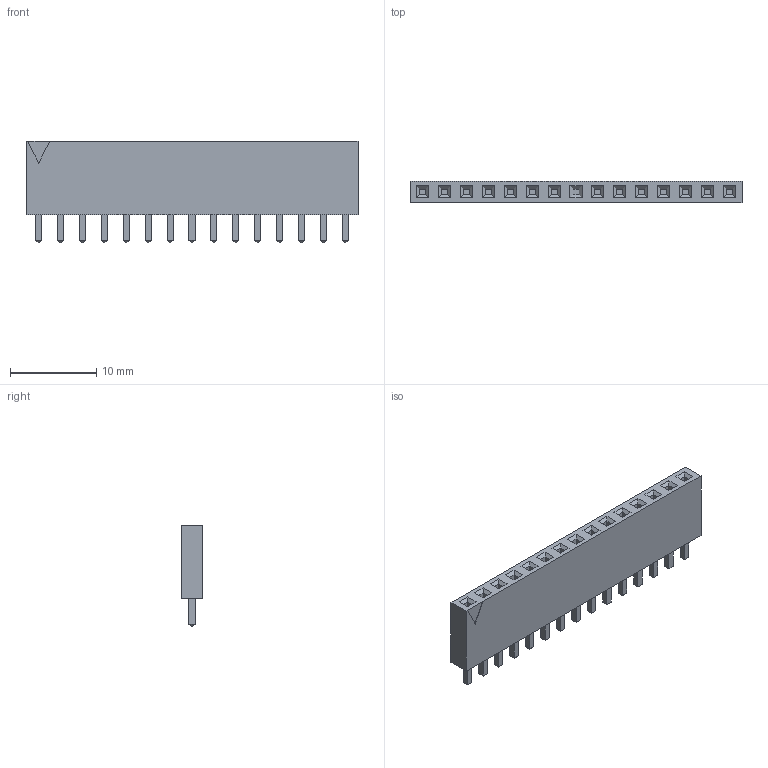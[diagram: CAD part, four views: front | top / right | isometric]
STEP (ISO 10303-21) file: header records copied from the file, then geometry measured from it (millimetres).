
FILE_DESCRIPTION(('FreeCAD Model'),'2;1');
FILE_NAME('/var/www/3D/0T/661683.5.1.stp','2026-01-02T13:32:50',( 'Author'),(''),'Open CASCADE STEP processor 6.9','FreeCAD','Unknown' );
FILE_SCHEMA(('AUTOMOTIVE_DESIGN { 1 0 10303 214 1 1 1 1 }'));
Length unit declared in the file: millimetre
Products named in the file (3): ASSEMBLY; Body; LeadsArray
Assembly tree (2 placements, depth 2):
  ASSEMBLY
    Body
    LeadsArray
Bounding box: 38.5 x 2.5 x 11.75 mm (x, y, z)
Volume: 799.7 mm3; surface area: 1383.5 mm2
Topology: 16 solids, 16 shells, 294 faces, 621 edges, 374 vertices
Faces by surface type: plane 294
Entity records: 15782 total; most frequent: CARTESIAN_POINT 2534, DIRECTION 2457, LINE 1863, VECTOR 1863, ORIENTED_EDGE 1242, PCURVE 1242, DEFINITIONAL_REPRESENTATION 1242, EDGE_CURVE 621
